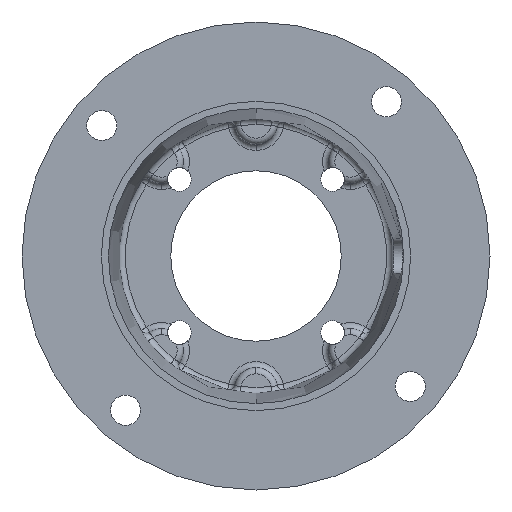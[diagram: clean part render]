
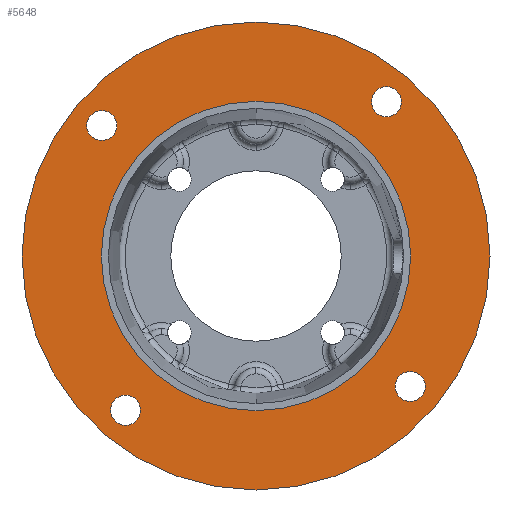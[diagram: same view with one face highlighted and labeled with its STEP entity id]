
A CAD part, front view. The second image highlights one B-rep face of the part: STEP entity #5648.
In plain terms, the highlighted planar face has unit normal (0, -1, 0).
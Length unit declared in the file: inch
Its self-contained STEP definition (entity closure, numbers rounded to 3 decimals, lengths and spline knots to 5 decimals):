
#122 = CARTESIAN_POINT ( 'NONE',  ( 0., 0.103, 3.405 ) ) ;
#201 = EDGE_LOOP ( 'NONE', ( #5040, #4709 ) ) ;
#257 = AXIS2_PLACEMENT_3D ( 'NONE', #2023, #6242, #2628 ) ;
#309 = CARTESIAN_POINT ( 'NONE',  ( 0., 0.103, -3.405 ) ) ;
#566 = VERTEX_POINT ( 'NONE', #4512 ) ;
#677 = CARTESIAN_POINT ( 'NONE',  ( -2.24475, 0.103, 1.67986 ) ) ;
#1011 = AXIS2_PLACEMENT_3D ( 'NONE', #5325, #1702, #5927 ) ;
#1031 = EDGE_CURVE ( 'NONE', #3138, #7376, #1120, .T. ) ;
#1053 = CARTESIAN_POINT ( 'NONE',  ( 0., 0.103, 2.2505 ) ) ;
#1120 = CIRCLE ( 'NONE', #6791, 0.21875 ) ;
#1215 = CARTESIAN_POINT ( 'NONE',  ( 2.24475, 0.103, -1.89861 ) ) ;
#1227 = FACE_OUTER_BOUND ( 'NONE', #1231, .T. ) ;
#1231 = EDGE_LOOP ( 'NONE', ( #4657, #6302 ) ) ;
#1268 = CARTESIAN_POINT ( 'NONE',  ( -1.89861, 0.103, -2.24475 ) ) ;
#1325 = DIRECTION ( 'NONE',  ( 0., -1., 0. ) ) ;
#1431 = DIRECTION ( 'NONE',  ( 0., -1., 0. ) ) ;
#1456 = VERTEX_POINT ( 'NONE', #2405 ) ;
#1503 = AXIS2_PLACEMENT_3D ( 'NONE', #6178, #2558, #6786 ) ;
#1556 = VERTEX_POINT ( 'NONE', #1881 ) ;
#1702 = DIRECTION ( 'NONE',  ( 0., -1., 0. ) ) ;
#1811 = CIRCLE ( 'NONE', #1011, 0.21875 ) ;
#1819 = DIRECTION ( 'NONE',  ( 0., 0., -1. ) ) ;
#1875 = DIRECTION ( 'NONE',  ( 0., 0., -1. ) ) ;
#1881 = CARTESIAN_POINT ( 'NONE',  ( 1.89861, 0.103, 2.026 ) ) ;
#1960 = CIRCLE ( 'NONE', #2970, 2.2505 ) ;
#2008 = VERTEX_POINT ( 'NONE', #309 ) ;
#2023 = CARTESIAN_POINT ( 'NONE',  ( 1.89861, 0.103, 2.24475 ) ) ;
#2405 = CARTESIAN_POINT ( 'NONE',  ( 0., 0.103, -2.2505 ) ) ;
#2461 = EDGE_LOOP ( 'NONE', ( #4957, #4639 ) ) ;
#2473 = CIRCLE ( 'NONE', #7089, 3.405 ) ;
#2474 = ORIENTED_EDGE ( 'NONE', *, *, #1031, .F. ) ;
#2558 = DIRECTION ( 'NONE',  ( 0., -1., 0. ) ) ;
#2614 = ORIENTED_EDGE ( 'NONE', *, *, #6208, .F. ) ;
#2628 = DIRECTION ( 'NONE',  ( 0., 0., -1. ) ) ;
#2749 = CIRCLE ( 'NONE', #257, 0.21875 ) ;
#2801 = ORIENTED_EDGE ( 'NONE', *, *, #5877, .F. ) ;
#2822 = FACE_BOUND ( 'NONE', #2461, .T. ) ;
#2846 = CARTESIAN_POINT ( 'NONE',  ( -1.89861, 0.103, -2.026 ) ) ;
#2847 = EDGE_CURVE ( 'NONE', #1556, #6383, #5028, .T. ) ;
#2970 = AXIS2_PLACEMENT_3D ( 'NONE', #3219, #7464, #3826 ) ;
#3074 = CARTESIAN_POINT ( 'NONE',  ( 0., 0.103, 0. ) ) ;
#3111 = DIRECTION ( 'NONE',  ( 0., -1., 0. ) ) ;
#3116 = CARTESIAN_POINT ( 'NONE',  ( 0., 0.103, 0. ) ) ;
#3138 = VERTEX_POINT ( 'NONE', #5990 ) ;
#3219 = CARTESIAN_POINT ( 'NONE',  ( 0., 0.103, 0. ) ) ;
#3256 = EDGE_CURVE ( 'NONE', #2008, #7105, #3747, .T. ) ;
#3295 = AXIS2_PLACEMENT_3D ( 'NONE', #4941, #1325, #5552 ) ;
#3311 = EDGE_CURVE ( 'NONE', #1456, #3429, #1960, .T. ) ;
#3370 = CARTESIAN_POINT ( 'NONE',  ( -2.24475, 0.103, 1.89861 ) ) ;
#3385 = FACE_BOUND ( 'NONE', #201, .T. ) ;
#3428 = AXIS2_PLACEMENT_3D ( 'NONE', #5045, #1431, #5654 ) ;
#3429 = VERTEX_POINT ( 'NONE', #1053 ) ;
#3570 = CARTESIAN_POINT ( 'NONE',  ( 0., 0.103, 0. ) ) ;
#3627 = AXIS2_PLACEMENT_3D ( 'NONE', #3074, #7307, #3670 ) ;
#3670 = DIRECTION ( 'NONE',  ( 0., 0., -1. ) ) ;
#3717 = DIRECTION ( 'NONE',  ( 0., 0., -1. ) ) ;
#3747 = CIRCLE ( 'NONE', #7201, 3.405 ) ;
#3826 = DIRECTION ( 'NONE',  ( 0., 0., -1. ) ) ;
#3847 = AXIS2_PLACEMENT_3D ( 'NONE', #3570, #7819, #4194 ) ;
#3870 = CIRCLE ( 'NONE', #3428, 0.21875 ) ;
#3978 = DIRECTION ( 'NONE',  ( 0., 0., -1. ) ) ;
#3993 = VERTEX_POINT ( 'NONE', #6800 ) ;
#4194 = DIRECTION ( 'NONE',  ( 0., 0., -1. ) ) ;
#4443 = FACE_BOUND ( 'NONE', #7789, .T. ) ;
#4512 = CARTESIAN_POINT ( 'NONE',  ( -2.24475, 0.103, 2.11736 ) ) ;
#4633 = CIRCLE ( 'NONE', #3847, 2.2505 ) ;
#4639 = ORIENTED_EDGE ( 'NONE', *, *, #6265, .F. ) ;
#4653 = AXIS2_PLACEMENT_3D ( 'NONE', #1215, #5429, #1819 ) ;
#4657 = ORIENTED_EDGE ( 'NONE', *, *, #3256, .T. ) ;
#4709 = ORIENTED_EDGE ( 'NONE', *, *, #7473, .F. ) ;
#4711 = EDGE_CURVE ( 'NONE', #5672, #566, #4813, .T. ) ;
#4813 = CIRCLE ( 'NONE', #7071, 0.21875 ) ;
#4941 = CARTESIAN_POINT ( 'NONE',  ( 1.89861, 0.103, 2.24475 ) ) ;
#4957 = ORIENTED_EDGE ( 'NONE', *, *, #3311, .F. ) ;
#4986 = EDGE_CURVE ( 'NONE', #7376, #3138, #7086, .T. ) ;
#5028 = CIRCLE ( 'NONE', #3295, 0.21875 ) ;
#5040 = ORIENTED_EDGE ( 'NONE', *, *, #4711, .F. ) ;
#5045 = CARTESIAN_POINT ( 'NONE',  ( -2.24475, 0.103, 1.89861 ) ) ;
#5325 = CARTESIAN_POINT ( 'NONE',  ( 2.24475, 0.103, -1.89861 ) ) ;
#5429 = DIRECTION ( 'NONE',  ( 0., -1., 0. ) ) ;
#5482 = DIRECTION ( 'NONE',  ( 0., -1., 0. ) ) ;
#5514 = CARTESIAN_POINT ( 'NONE',  ( 1.89861, 0.103, 2.4635 ) ) ;
#5552 = DIRECTION ( 'NONE',  ( 0., 0., -1. ) ) ;
#5648 = ADVANCED_FACE ( 'NONE', ( #4443, #3385, #6238, #6038, #2822, #1227 ), #6657, .T. ) ;
#5654 = DIRECTION ( 'NONE',  ( 0., 0., -1. ) ) ;
#5672 = VERTEX_POINT ( 'NONE', #677 ) ;
#5791 = ORIENTED_EDGE ( 'NONE', *, *, #6308, .F. ) ;
#5877 = EDGE_CURVE ( 'NONE', #6383, #1556, #2749, .T. ) ;
#5927 = DIRECTION ( 'NONE',  ( 0., 0., -1. ) ) ;
#5990 = CARTESIAN_POINT ( 'NONE',  ( -1.89861, 0.103, -2.4635 ) ) ;
#6038 = FACE_BOUND ( 'NONE', #7084, .T. ) ;
#6178 = CARTESIAN_POINT ( 'NONE',  ( -1.89861, 0.103, -2.24475 ) ) ;
#6208 = EDGE_CURVE ( 'NONE', #3993, #7658, #1811, .T. ) ;
#6238 = FACE_BOUND ( 'NONE', #6610, .T. ) ;
#6242 = DIRECTION ( 'NONE',  ( 0., -1., 0. ) ) ;
#6265 = EDGE_CURVE ( 'NONE', #3429, #1456, #4633, .T. ) ;
#6302 = ORIENTED_EDGE ( 'NONE', *, *, #6394, .T. ) ;
#6308 = EDGE_CURVE ( 'NONE', #7658, #3993, #7491, .T. ) ;
#6383 = VERTEX_POINT ( 'NONE', #5514 ) ;
#6394 = EDGE_CURVE ( 'NONE', #7105, #2008, #2473, .T. ) ;
#6610 = EDGE_LOOP ( 'NONE', ( #2614, #5791 ) ) ;
#6657 = PLANE ( 'NONE',  #3627 ) ;
#6728 = CARTESIAN_POINT ( 'NONE',  ( 0., 0.103, 0. ) ) ;
#6786 = DIRECTION ( 'NONE',  ( 0., 0., -1. ) ) ;
#6791 = AXIS2_PLACEMENT_3D ( 'NONE', #1268, #5482, #1875 ) ;
#6800 = CARTESIAN_POINT ( 'NONE',  ( 2.24475, 0.103, -2.11736 ) ) ;
#6928 = ORIENTED_EDGE ( 'NONE', *, *, #4986, .F. ) ;
#7071 = AXIS2_PLACEMENT_3D ( 'NONE', #3370, #7606, #3978 ) ;
#7084 = EDGE_LOOP ( 'NONE', ( #2474, #6928 ) ) ;
#7086 = CIRCLE ( 'NONE', #1503, 0.21875 ) ;
#7089 = AXIS2_PLACEMENT_3D ( 'NONE', #6728, #3111, #7351 ) ;
#7105 = VERTEX_POINT ( 'NONE', #122 ) ;
#7150 = CARTESIAN_POINT ( 'NONE',  ( 2.24475, 0.103, -1.67986 ) ) ;
#7201 = AXIS2_PLACEMENT_3D ( 'NONE', #3116, #7356, #3717 ) ;
#7307 = DIRECTION ( 'NONE',  ( 0., -1., 0. ) ) ;
#7351 = DIRECTION ( 'NONE',  ( 0., 0., -1. ) ) ;
#7356 = DIRECTION ( 'NONE',  ( 0., -1., 0. ) ) ;
#7376 = VERTEX_POINT ( 'NONE', #2846 ) ;
#7416 = ORIENTED_EDGE ( 'NONE', *, *, #2847, .F. ) ;
#7464 = DIRECTION ( 'NONE',  ( 0., -1., 0. ) ) ;
#7473 = EDGE_CURVE ( 'NONE', #566, #5672, #3870, .T. ) ;
#7491 = CIRCLE ( 'NONE', #4653, 0.21875 ) ;
#7606 = DIRECTION ( 'NONE',  ( 0., -1., 0. ) ) ;
#7658 = VERTEX_POINT ( 'NONE', #7150 ) ;
#7789 = EDGE_LOOP ( 'NONE', ( #7416, #2801 ) ) ;
#7819 = DIRECTION ( 'NONE',  ( 0., -1., 0. ) ) ;
